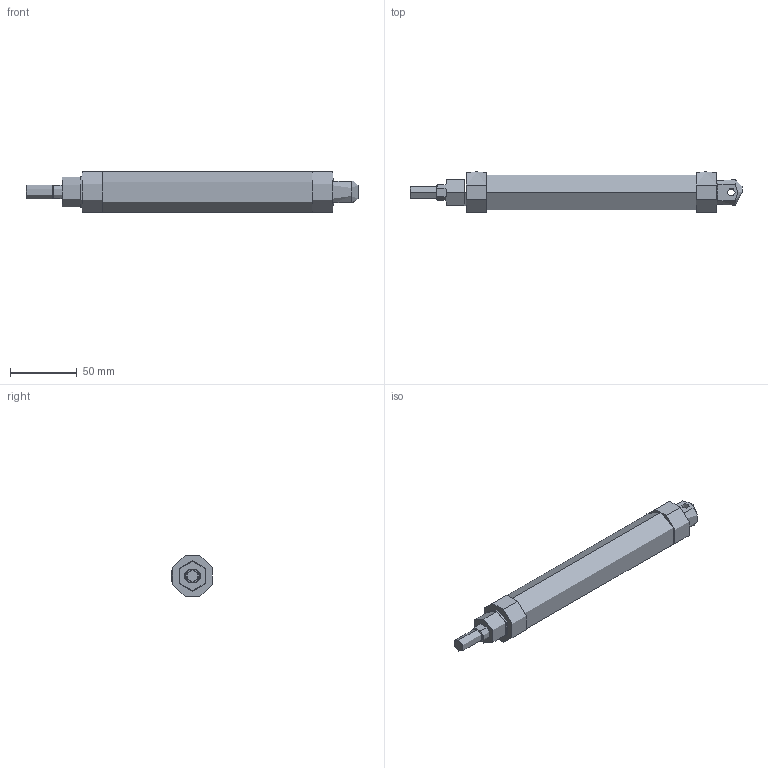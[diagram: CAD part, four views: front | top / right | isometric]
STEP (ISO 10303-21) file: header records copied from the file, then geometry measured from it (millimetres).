
FILE_DESCRIPTION (( 'STEP AP203' ), '1' );
FILE_NAME ('J#2-25-125-C.STEP', '2016-03-08T07:24:51', ( '' ), ( '' ), 'SwSTEP 2.0', 'SolidWorks 2014', '' );
FILE_SCHEMA (( 'CONFIG_CONTROL_DESIGN' ));
Length unit declared in the file: millimetre
Products named in the file (1): J#2-25-125-C
Bounding box: 248 x 30.15 x 30 mm (x, y, z)
Topology: 0 solids, 2 shells, 52 faces, 117 edges, 74 vertices
Faces by surface type: plane 24, cylinder 22, cone 6
Full cylindrical faces by diameter (mm): 23 x1
Entity records: 1699 total; most frequent: CARTESIAN_POINT 429, DIRECTION 262, ORIENTED_EDGE 236, EDGE_CURVE 117, AXIS2_PLACEMENT_3D 103, VERTEX_POINT 74, EDGE_LOOP 60, VECTOR 56
